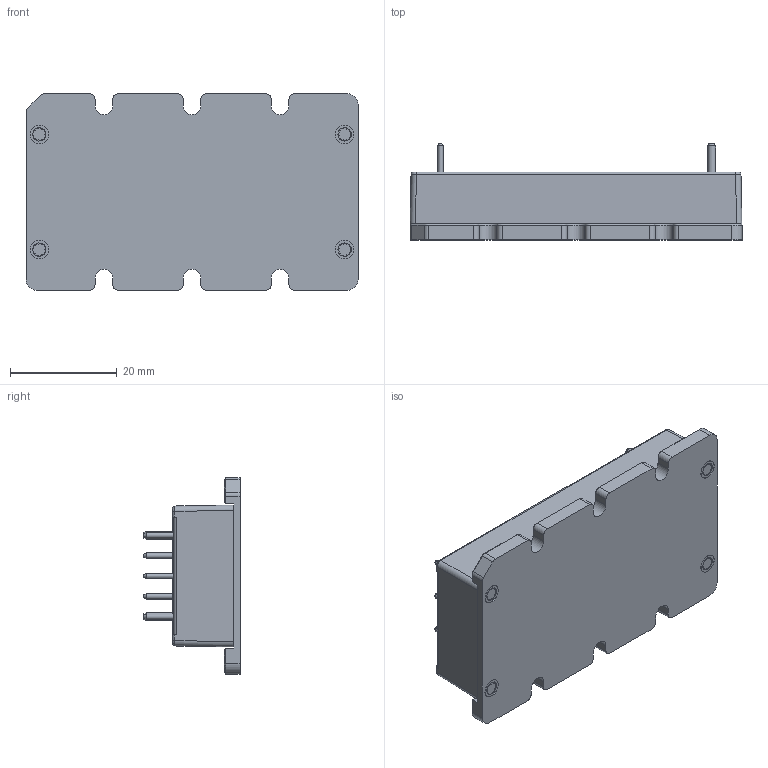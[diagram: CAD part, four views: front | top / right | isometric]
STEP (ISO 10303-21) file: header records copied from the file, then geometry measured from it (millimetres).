
FILE_DESCRIPTION (( 'STEP AP203' ), '1' );
FILE_NAME ('CEB100W-F成品圖2024.05.09.STEP', '2024-05-10T02:23:03', ( '' ), ( '' ), 'SwSTEP 2.0', 'SolidWorks 2020', '' );
FILE_SCHEMA (( 'CONFIG_CONTROL_DESIGN' ));
Length unit declared in the file: millimetre
Products named in the file (1): CEB100W-F成品圖2024.05.09
Bounding box: 62.2 x 18 x 36.8 mm (x, y, z)
Volume: 22303.3 mm3; surface area: 8044.6 mm2
Topology: 1 solids, 3 shells, 500 faces, 1217 edges, 789 vertices
Faces by surface type: plane 240, cylinder 210, cone 42, bspline 8
Full cylindrical faces by diameter (mm): 1 x6, 1.2 x6, 1.5 x8, 1.7 x2, 2 x2, 3.5 x4
Entity records: 14606 total; most frequent: CARTESIAN_POINT 2675, DIRECTION 2571, ORIENTED_EDGE 2324, EDGE_CURVE 1162, AXIS2_PLACEMENT_3D 946, VERTEX_POINT 778, VECTOR 679, LINE 679
